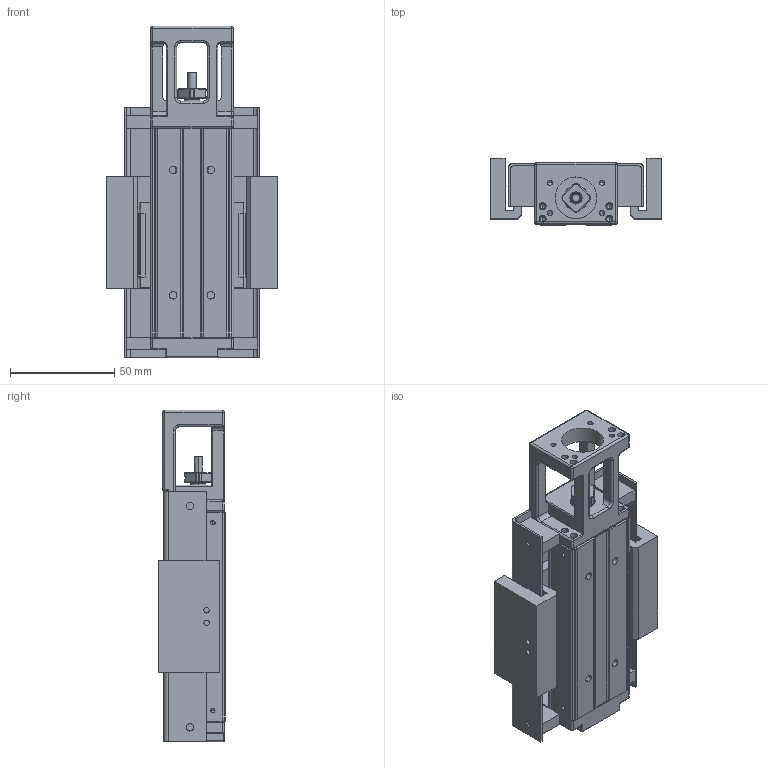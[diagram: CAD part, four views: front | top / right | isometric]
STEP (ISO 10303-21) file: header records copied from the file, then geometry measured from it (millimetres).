
FILE_DESCRIPTION (( 'STEP AP203' ), '1' );
FILE_NAME ('hkk40-100a1f0s.STEP', '2016-11-03T06:08:53', ( 'Windows' ), ( 'Microsoft' ), 'SwSTEP 2.0', 'SolidWorks 2016', '' );
FILE_SCHEMA (( 'CONFIG_CONTROL_DESIGN' ));
Length unit declared in the file: millimetre
Products named in the file (3): 掛极1; 40賑怢郪1; hkk40-100a1f0s
Assembly tree (2 placements, depth 2):
  hkk40-100a1f0s
    掛极1
    40賑怢郪1
Bounding box: 82 x 32 x 159 mm (x, y, z)
Volume: 143662.9 mm3; surface area: 90344.4 mm2
Topology: 17 solids, 27 shells, 1127 faces, 2964 edges, 1838 vertices
Faces by surface type: cylinder 419, plane 401, cone 176, bspline 126, sphere 3, torus 2
Entity records: 46989 total; most frequent: CARTESIAN_POINT 20288, ORIENTED_EDGE 5716, DIRECTION 5046, EDGE_CURVE 2858, VERTEX_POINT 1838, AXIS2_PLACEMENT_3D 1777, VECTOR 1492, LINE 1492
